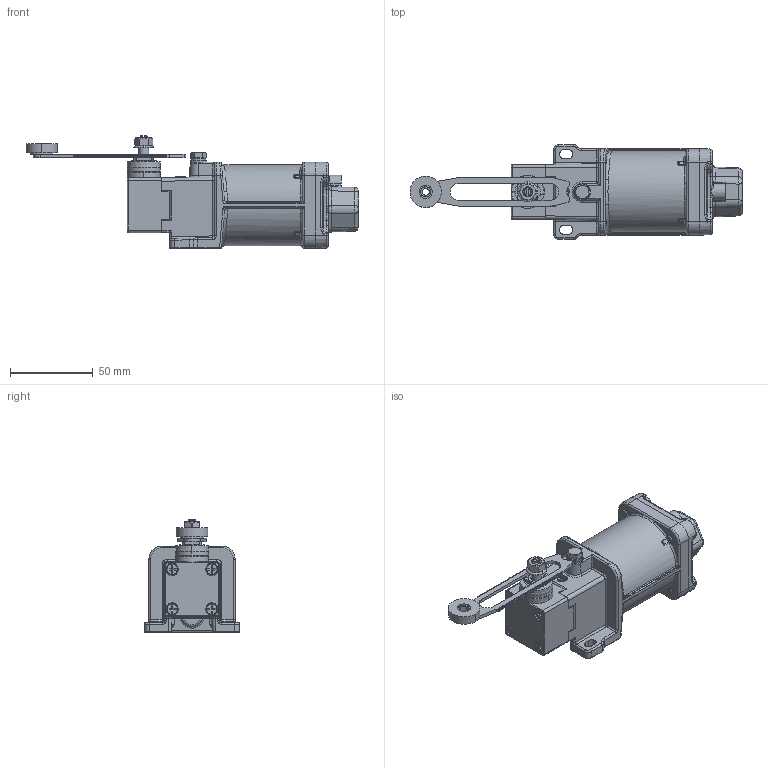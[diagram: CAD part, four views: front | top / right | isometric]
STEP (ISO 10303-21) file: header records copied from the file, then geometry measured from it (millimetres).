
FILE_DESCRIPTION((''),'2;1');
FILE_NAME('\\192.168.5.25\cortem_klient\INVENTOR БАЗА МОДЕЛЕЙ\Актуальная база моделей для отдела продаж\ДВГ-КВ\ДВГ-КВ-E52.stp','2019-10-29T13:52:36',('K.S.Bezzubikov'),(''),'Autodesk Inventor 2012','Autodesk Inventor 2012','');
FILE_SCHEMA(('AUTOMOTIVE_DESIGN { 1 0 10303 214 1 1 1 1 }'));
Length unit declared in the file: millimetre
Products named in the file (1): ДВГ-КВ-E52К1_М20х1,5_Внешний контур_1
Bounding box: 200.15 x 57 x 67.9 mm (x, y, z)
Volume: 153174.5 mm3; surface area: 77281.5 mm2
Topology: 2 solids, 24 shells, 2178 faces, 5481 edges, 3368 vertices
Faces by surface type: plane 952, cylinder 709, bspline 305, torus 123, cone 73, sphere 16
Full cylindrical faces by diameter (mm): 1.76 x1, 2.51 x1, 3 x1, 3.2 x5, 3.7 x1, 3.76 x1, 4.1 x1, 4.567 x1, 4.988 x8, 5 x5, 5.2 x4, 5.3 x1, 5.4 x5, 6 x1, 6.5 x1, 6.7 x1, 8.4 x1, 8.5 x4, 9.5 x4, 10 x1, 16 x1, 18.4 x1, 22 x1, 24.6 x1, 28.5 x1, 36.2 x1, 41.94 x1, 42 x1, 45.6 x1
Entity records: 84845 total; most frequent: CARTESIAN_POINT 32258, ORIENTED_EDGE 10556, DIRECTION 10210, EDGE_CURVE 5278, AXIS2_PLACEMENT_3D 3686, VERTEX_POINT 3325, VECTOR 2838, LINE 2838
